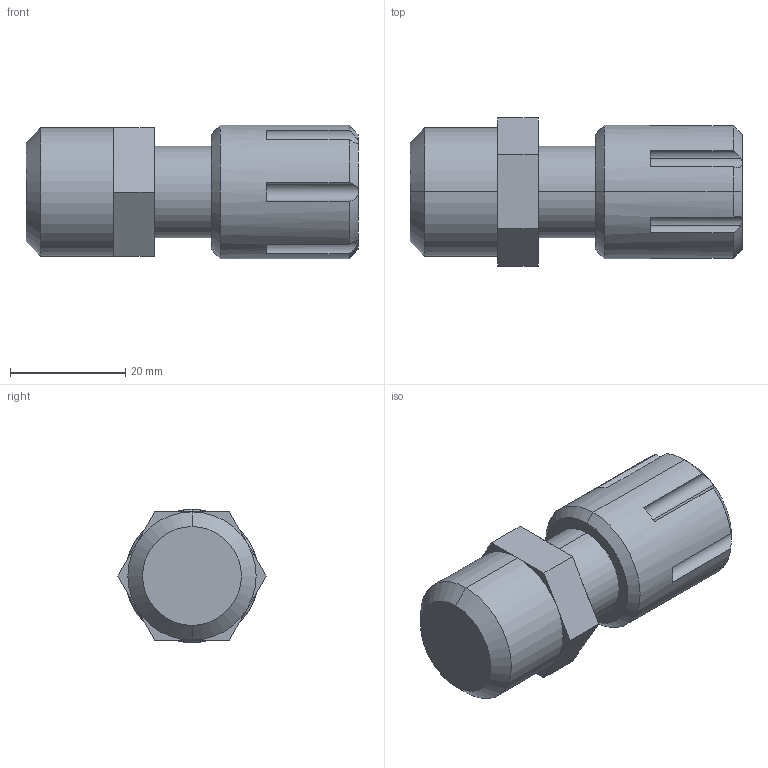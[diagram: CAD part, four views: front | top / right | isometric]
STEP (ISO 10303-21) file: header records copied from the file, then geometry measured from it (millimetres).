
FILE_DESCRIPTION (( 'STEP AP214' ), '1' );
FILE_NAME ('Fitting Flaretek Compatible 06.STEP', '2012-09-26T14:12:16', ( '' ), ( '' ), 'SwSTEP 2.0', 'SolidWorks 2012', '' );
FILE_SCHEMA (( 'AUTOMOTIVE_DESIGN' ));
Length unit declared in the file: inch
Products named in the file (1): Fitting Flaretek Compatible  06
Bounding box: 57.53 x 25.66 x 23.11 mm (x, y, z)
Volume: 20504.9 mm3; surface area: 5270.1 mm2
Topology: 1 solids, 1 shells, 58 faces, 138 edges, 85 vertices
Faces by surface type: plane 29, cylinder 18, cone 11
Entity records: 1860 total; most frequent: CARTESIAN_POINT 412, DIRECTION 307, ORIENTED_EDGE 276, EDGE_CURVE 138, AXIS2_PLACEMENT_3D 124, VERTEX_POINT 85, CIRCLE 65, EDGE_LOOP 61
